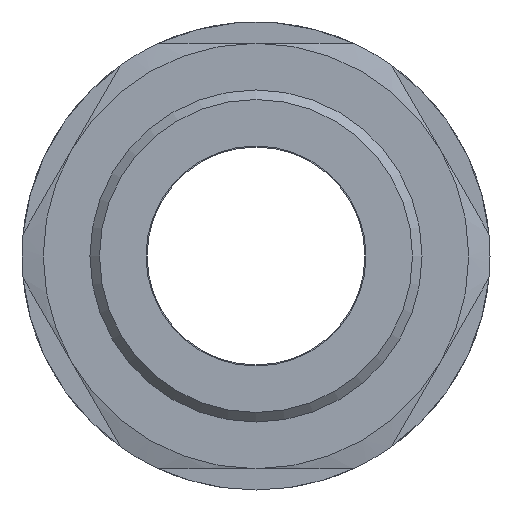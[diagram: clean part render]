
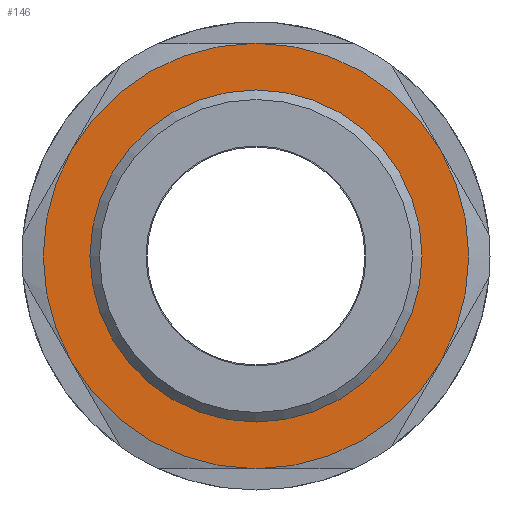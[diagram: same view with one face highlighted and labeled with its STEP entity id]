
A CAD part, front view. The second image highlights one B-rep face of the part: STEP entity #146.
In plain terms, the highlighted planar face has unit normal (0, -1, 0) as drawn and (1, 0, 0) by its records, which use the part's own axes.
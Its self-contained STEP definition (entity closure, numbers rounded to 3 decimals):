
#146 = ADVANCED_FACE( '', ( #327, #328 ), #329, .F. );
#327 = FACE_BOUND( '', #573, .T. );
#328 = FACE_OUTER_BOUND( '', #574, .T. );
#329 = PLANE( '', #575 );
#573 = EDGE_LOOP( '', ( #833 ) );
#574 = EDGE_LOOP( '', ( #834, #835, #836, #837, #838, #839 ) );
#575 = AXIS2_PLACEMENT_3D( '', #840, #841, #842 );
#833 = ORIENTED_EDGE( '', *, *, #1398, .F. );
#834 = ORIENTED_EDGE( '', *, *, #1399, .T. );
#835 = ORIENTED_EDGE( '', *, *, #1400, .T. );
#836 = ORIENTED_EDGE( '', *, *, #1401, .T. );
#837 = ORIENTED_EDGE( '', *, *, #1402, .T. );
#838 = ORIENTED_EDGE( '', *, *, #1403, .T. );
#839 = ORIENTED_EDGE( '', *, *, #1404, .T. );
#840 = CARTESIAN_POINT( '', ( 7., 20.5, 0. ) );
#841 = DIRECTION( '', ( -1., 0., 0. ) );
#842 = DIRECTION( '', ( 0., 0., 1. ) );
#1398 = EDGE_CURVE( '', #1635, #1635, #1636, .T. );
#1399 = EDGE_CURVE( '', #1637, #1638, #1639, .T. );
#1400 = EDGE_CURVE( '', #1638, #1640, #1641, .T. );
#1401 = EDGE_CURVE( '', #1640, #1642, #1643, .T. );
#1402 = EDGE_CURVE( '', #1642, #1644, #1645, .T. );
#1403 = EDGE_CURVE( '', #1644, #1646, #1647, .T. );
#1404 = EDGE_CURVE( '', #1646, #1637, #1648, .T. );
#1635 = VERTEX_POINT( '', #2010 );
#1636 = CIRCLE( '', #2011, 16. );
#1637 = VERTEX_POINT( '', #2012 );
#1638 = VERTEX_POINT( '', #2013 );
#1639 = CIRCLE( '', #2014, 20.5 );
#1640 = VERTEX_POINT( '', #2015 );
#1641 = CIRCLE( '', #2016, 20.5 );
#1642 = VERTEX_POINT( '', #2017 );
#1643 = CIRCLE( '', #2018, 20.5 );
#1644 = VERTEX_POINT( '', #2019 );
#1645 = CIRCLE( '', #2020, 20.5 );
#1646 = VERTEX_POINT( '', #2021 );
#1647 = CIRCLE( '', #2022, 20.5 );
#1648 = CIRCLE( '', #2023, 20.5 );
#2010 = CARTESIAN_POINT( '', ( 7., 0., -16. ) );
#2011 = AXIS2_PLACEMENT_3D( '', #2502, #2503, #2504 );
#2012 = CARTESIAN_POINT( '', ( 7., 0., -20.5 ) );
#2013 = CARTESIAN_POINT( '', ( 7., 17.754, -10.25 ) );
#2014 = AXIS2_PLACEMENT_3D( '', #2505, #2506, #2507 );
#2015 = CARTESIAN_POINT( '', ( 7., 17.754, 10.25 ) );
#2016 = AXIS2_PLACEMENT_3D( '', #2508, #2509, #2510 );
#2017 = CARTESIAN_POINT( '', ( 7., 0., 20.5 ) );
#2018 = AXIS2_PLACEMENT_3D( '', #2511, #2512, #2513 );
#2019 = CARTESIAN_POINT( '', ( 7., -17.754, 10.25 ) );
#2020 = AXIS2_PLACEMENT_3D( '', #2514, #2515, #2516 );
#2021 = CARTESIAN_POINT( '', ( 7., -17.754, -10.25 ) );
#2022 = AXIS2_PLACEMENT_3D( '', #2517, #2518, #2519 );
#2023 = AXIS2_PLACEMENT_3D( '', #2520, #2521, #2522 );
#2502 = CARTESIAN_POINT( '', ( 7., 0., 0. ) );
#2503 = DIRECTION( '', ( 1., 0., 0. ) );
#2504 = DIRECTION( '', ( 0., 0., -1. ) );
#2505 = CARTESIAN_POINT( '', ( 7., 0., 0. ) );
#2506 = DIRECTION( '', ( 1., 0., 0. ) );
#2507 = DIRECTION( '', ( 0., 0., -1. ) );
#2508 = CARTESIAN_POINT( '', ( 7., 0., 0. ) );
#2509 = DIRECTION( '', ( 1., 0., 0. ) );
#2510 = DIRECTION( '', ( 0., 0., -1. ) );
#2511 = CARTESIAN_POINT( '', ( 7., 0., 0. ) );
#2512 = DIRECTION( '', ( 1., 0., 0. ) );
#2513 = DIRECTION( '', ( 0., 0., -1. ) );
#2514 = CARTESIAN_POINT( '', ( 7., 0., 0. ) );
#2515 = DIRECTION( '', ( 1., 0., 0. ) );
#2516 = DIRECTION( '', ( 0., 0., -1. ) );
#2517 = CARTESIAN_POINT( '', ( 7., 0., 0. ) );
#2518 = DIRECTION( '', ( 1., 0., 0. ) );
#2519 = DIRECTION( '', ( 0., 0., -1. ) );
#2520 = CARTESIAN_POINT( '', ( 7., 0., 0. ) );
#2521 = DIRECTION( '', ( 1., 0., 0. ) );
#2522 = DIRECTION( '', ( 0., 0., -1. ) );
